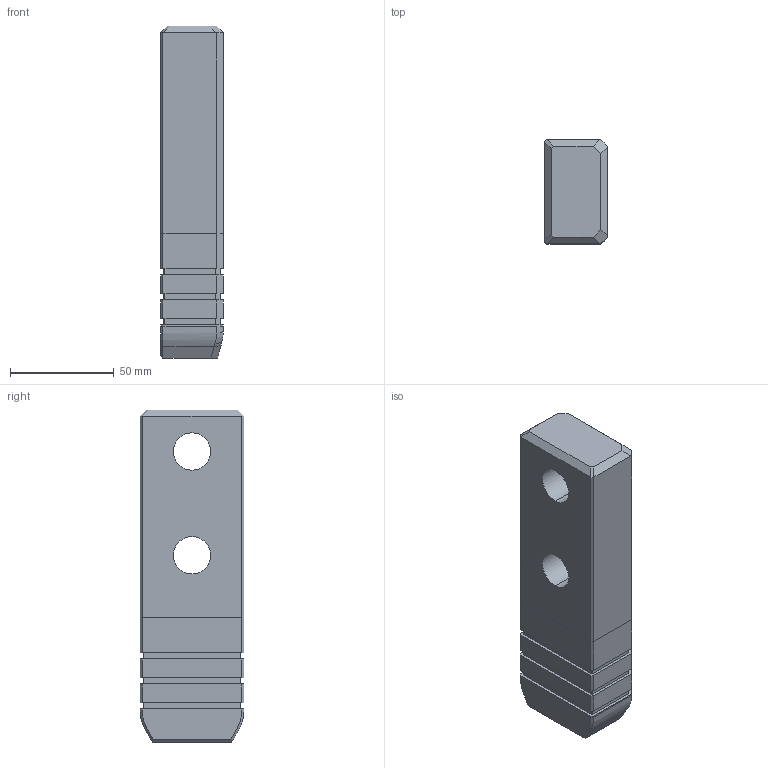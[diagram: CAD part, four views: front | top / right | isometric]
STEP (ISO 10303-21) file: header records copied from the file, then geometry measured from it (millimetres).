
FILE_DESCRIPTION((''),'2;1');
FILE_NAME('','2010-09-22T13:22:16+09:00',('misumi'),(''),'M/STEP i/f 1R2-14','CADmeister v5.1','');
FILE_SCHEMA(('AUTOMOTIVE_DESIGN'));
Length unit declared in the file: millimetre
Products named in the file (1): GWAZ50-160
Bounding box: 30 x 50 x 160 mm (x, y, z)
Volume: 217908.1 mm3; surface area: 30634.2 mm2
Topology: 1 solids, 1 shells, 103 faces, 263 edges, 168 vertices
Faces by surface type: plane 88, cylinder 7, bspline 6, cone 2
Entity records: 3415 total; most frequent: CARTESIAN_POINT 877, ORIENTED_EDGE 526, DIRECTION 453, EDGE_CURVE 263, LINE 233, VECTOR 233, VERTEX_POINT 168, EDGE_LOOP 113
